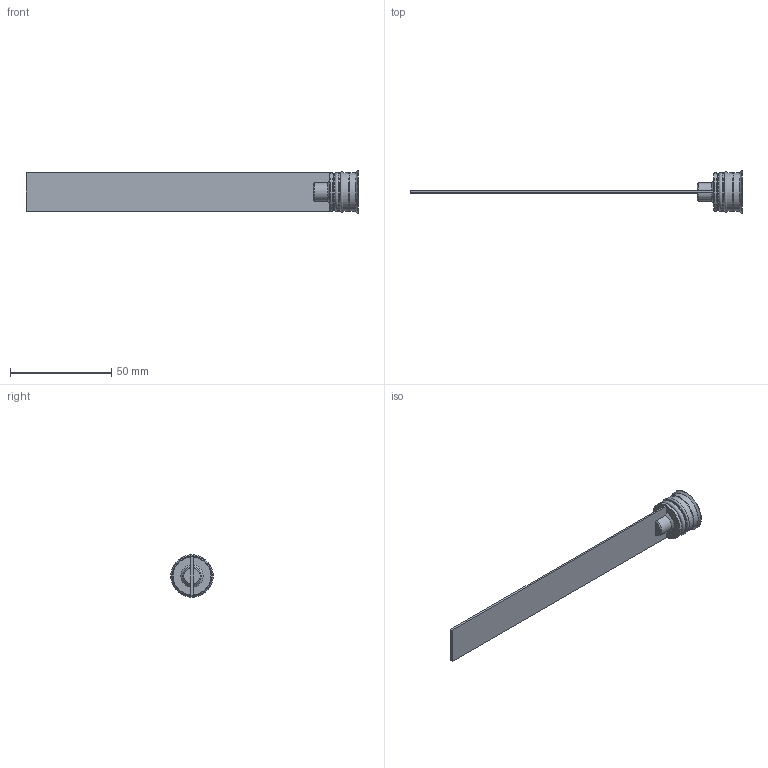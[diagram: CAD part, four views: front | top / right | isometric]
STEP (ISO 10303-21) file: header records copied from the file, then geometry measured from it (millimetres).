
FILE_DESCRIPTION( ( 'STEP AP214' ), '1' );
FILE_NAME( 'p:/temp/worker_255/temp/exporttempdir_4140_525_aRCpm/format_0/RL-19Fx150.stp', '2021-02-05T19:45:33', ( 'License CC BY-ND 4.0' ), ( 'CADENAS' ), ' ', 'PARTsolutions', ' ' );
FILE_SCHEMA( ( 'AUTOMOTIVE_DESIGN { 1 0 10303 214 1 1 1 1 }' ) );
Length unit declared in the file: millimetre
Products named in the file (1): _RL-19Fx150
Bounding box: 164 x 21 x 21 mm (x, y, z)
Volume: 6995.1 mm3; surface area: 8188.9 mm2
Topology: 1 solids, 1 shells, 55 faces, 131 edges, 83 vertices
Faces by surface type: plane 31, cone 11, cylinder 10, torus 3
Full cylindrical faces by diameter (mm): 10 x1, 19 x4, 21 x1
Entity records: 1970 total; most frequent: CARTESIAN_POINT 300, DIRECTION 248, ORIENTED_EDGE 230, EDGE_CURVE 115, AXIS2_PLACEMENT_3D 91, VERTEX_POINT 83, EDGE_LOOP 74, LINE 66
